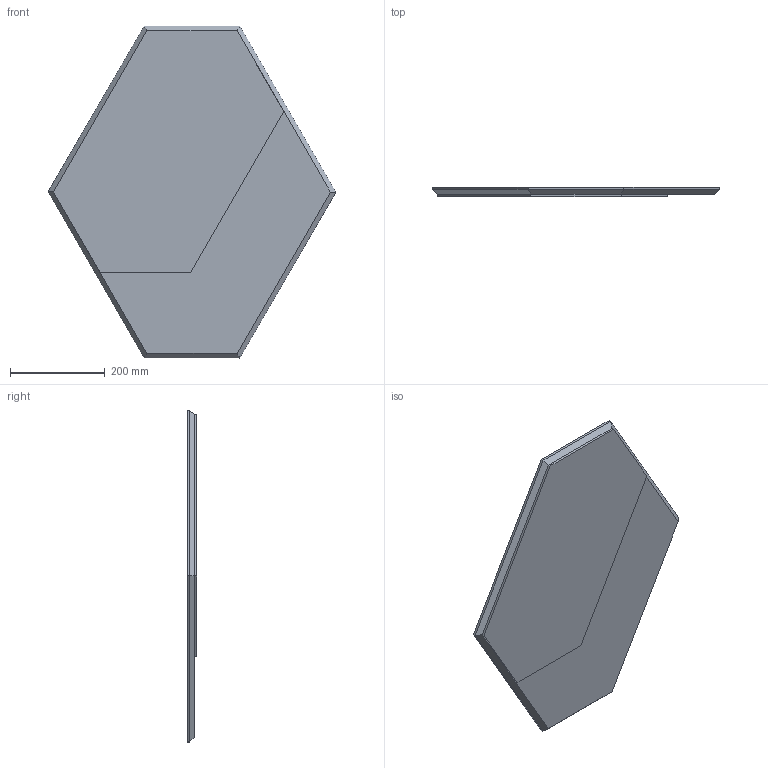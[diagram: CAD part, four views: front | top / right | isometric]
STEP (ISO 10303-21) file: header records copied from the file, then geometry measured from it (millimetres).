
FILE_DESCRIPTION (( 'STEP AP203' ), '1' );
FILE_NAME ('GEO02_GeoB_70x60,5.STEP', '2024-08-06T07:21:21', ( '' ), ( '' ), 'SwSTEP 2.0', 'SolidWorks 2022', '' );
FILE_SCHEMA (( 'CONFIG_CONTROL_DESIGN' ));
Length unit declared in the file: millimetre
Products named in the file (2): GEO0000000000-00-Geo strutture A B e C_GEO02 B 70X60,6; GEO02_GeoB_70x60,5
Assembly tree (1 placements, depth 2):
  GEO02_GeoB_70x60,5
    GEO0000000000-00-Geo strutture A B e C_GEO02 B 70X60,6
Bounding box: 606.5 x 20 x 700.01 mm (x, y, z)
Volume: 4917220.8 mm3; surface area: 931401.7 mm2
Topology: 4 solids, 4 shells, 122 faces, 316 edges, 202 vertices
Faces by surface type: plane 70, cylinder 44, cone 8
Entity records: 3866 total; most frequent: DIRECTION 648, CARTESIAN_POINT 636, ORIENTED_EDGE 616, EDGE_CURVE 308, LINE 220, VECTOR 220, AXIS2_PLACEMENT_3D 214, VERTEX_POINT 202
